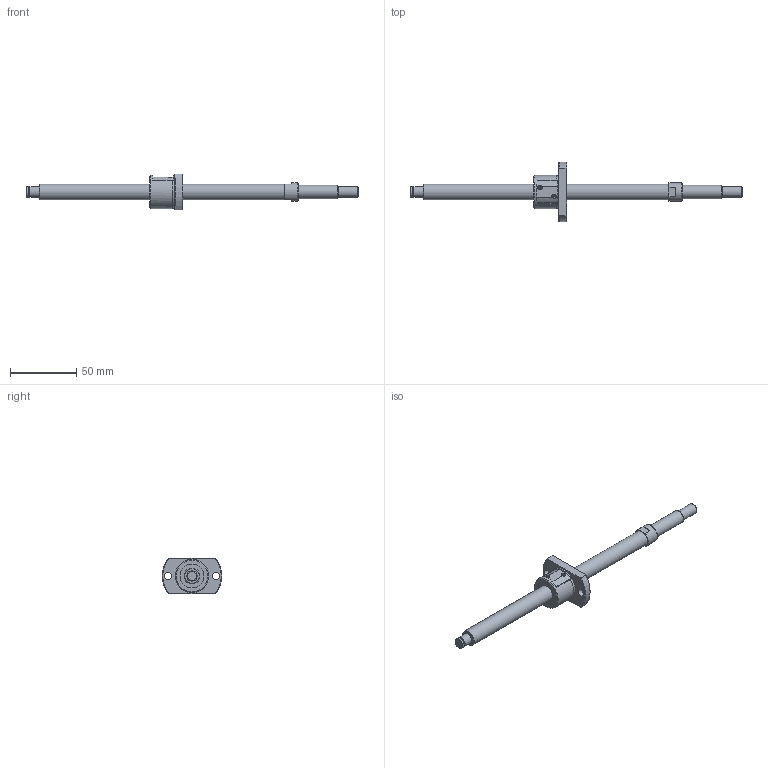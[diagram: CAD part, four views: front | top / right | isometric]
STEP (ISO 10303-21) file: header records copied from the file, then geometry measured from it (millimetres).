
FILE_DESCRIPTION(/* description */ ('STEP AP214'),/* implementation_level */ '2;1');
FILE_NAME(/* name */ 'SG1202-181R250C5B0X(83)',/* time_stamp */ '2026-07-24T15:19:37+02:00',/* author */ ('License CC BY-ND 4.0'),/* organization */ ('CADENAS'),/* preprocessor_version */ 'ST-DEVELOPER v20',/* originating_system */ 'PARTsolutions',/* authorisation */ ' ');
FILE_SCHEMA (('AUTOMOTIVE_DESIGN {1 0 10303 214 3 1 1}'));
Length unit declared in the file: millimetre
Products named in the file (3): SG1202-181R250C5B0X(83); SG1202-181R250C5B_shaft; SG1202 C5_nut
Assembly tree (2 placements, depth 2):
  SG1202-181R250C5B0X(83)
    SG1202-181R250C5B_shaft
    SG1202 C5_nut
Bounding box: 250 x 45 x 27 mm (x, y, z)
Volume: 38465.7 mm3; surface area: 14676.8 mm2
Topology: 2 solids, 2 shells, 79 faces, 188 edges, 123 vertices
Faces by surface type: plane 38, cylinder 26, cone 14, torus 1
Full cylindrical faces by diameter (mm): 5.5 x2, 7.6 x1, 8 x3, 10 x1, 12 x2, 14 x1, 18 x2, 24.5 x1, 25 x1
Entity records: 2197 total; most frequent: CARTESIAN_POINT 408, DIRECTION 374, ORIENTED_EDGE 306, AXIS2_PLACEMENT_3D 157, EDGE_CURVE 153, EDGE_LOOP 120, FACE_BOUND 120, VERTEX_POINT 113
